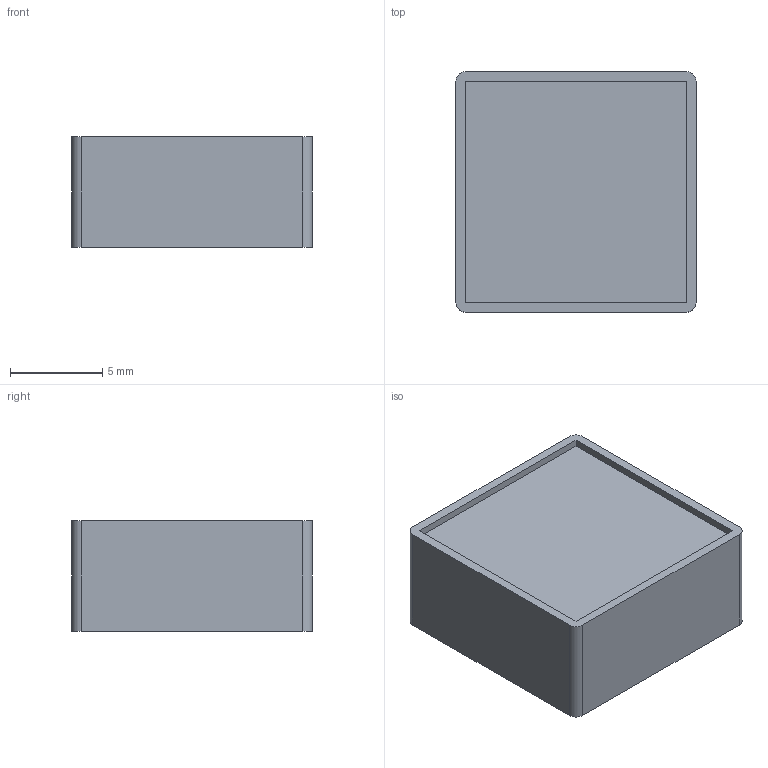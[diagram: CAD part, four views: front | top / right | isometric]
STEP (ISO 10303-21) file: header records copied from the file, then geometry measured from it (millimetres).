
FILE_DESCRIPTION(('FreeCAD Model'),'2;1');
FILE_NAME('Open CASCADE Shape Model','2025-12-02T22:24:22',(''),(''), 'Open CASCADE STEP processor 7.6','FreeCAD','Unknown');
FILE_SCHEMA(('AUTOMOTIVE_DESIGN { 1 0 10303 214 1 1 1 1 }'));
Length unit declared in the file: millimetre
Products named in the file (1): letter
Bounding box: 13 x 13 x 6 mm (x, y, z)
Volume: 865.6 mm3; surface area: 717.9 mm2
Topology: 1 solids, 1 shells, 34 faces, 78 edges, 48 vertices
Faces by surface type: plane 30, cylinder 4
Entity records: 1982 total; most frequent: CARTESIAN_POINT 341, DIRECTION 308, LINE 218, VECTOR 218, ORIENTED_EDGE 156, PCURVE 156, DEFINITIONAL_REPRESENTATION 156, EDGE_CURVE 78
